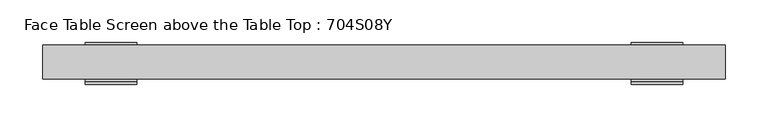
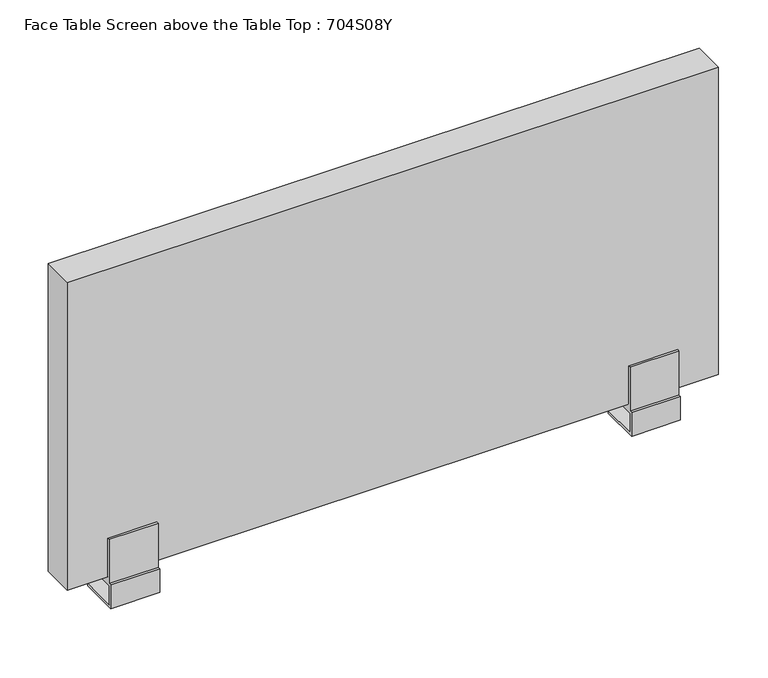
"""IFC4 building model written with IfcOpenShell, lengths in millimetres: furniture geometry, Face Table Screen above the Table Top : 704S08Y."""

from ifc_helpers import new_model, si_unit, frame, origin, place, context, project, spatial, polyline, circle_curve, outline, extrude, source, transform, mapped, element, save
from ifc_brep_helpers import plane_surface, cylinder_surface, advanced_brep


def face_table_screen_above_the_table_top_704s08y_034038e7(model_context):
    return source(origin(), model_context, "Body", "SolidModel", [
        advanced_brep(
        [(-325.0, 0.0, -39.4406633), (-315.0, 0.0, -39.4406633), (-315.0, 0.0, -28.0), (-325.0, 0.0, -28.0), (-350.0, 23.0, -25.0), (-350.0, -23.0, -25.0), (-290.0, -23.0, -25.0), (-290.0, 23.0, -25.0), (-350.0, -23.0, 0.0), (-350.0, 23.0, -28.0), (-350.0, -26.0, -28.0), (-350.0, -26.0, 3.0), (-350.0, -23.0, 3.0), (-350.0, -23.0, 60.0), (-350.0, -20.0, 60.0), (-350.0, -20.0, 10.0), (-350.0, 20.0, 10.0), (-350.0, 20.0, 60.0), (-350.0, 23.0, 60.0), (-350.0, 23.0, 0.0), (-290.0, -23.0, 0.0), (-290.0, 23.0, 0.0), (-290.0, 23.0, 60.0), (-290.0, 20.0, 60.0), (-290.0, 20.0, 10.0), (-290.0, -20.0, 10.0), (-290.0, -20.0, 60.0), (-290.0, -23.0, 60.0), (-290.0, -23.0, 3.0), (-290.0, -26.0, 3.0), (-290.0, -26.0, -28.0), (-290.0, 23.0, -28.0)],
        [
            (0, 1, circle_curve(frame((-320.0, 0.0, -39.4406633), z_axis=(0.0, 0.0, -1.0), x_axis=(1.0, 0.0, 0.0)), 5.0)),
            (1, 0, circle_curve(frame((-320.0, 0.0, -39.4406633), z_axis=(0.0, 0.0, -1.0), x_axis=(1.0, 0.0, 0.0)), 5.0)),
            (1, 2),
            (2, 3, circle_curve(frame((-320.0, 0.0, -28.0), z_axis=(0.0, 0.0, -1.0), x_axis=(1.0, 0.0, 0.0)), 5.0)),
            (3, 0),
            (3, 2, circle_curve(frame((-320.0, 0.0, -28.0), z_axis=(0.0, 0.0, -1.0), x_axis=(1.0, 0.0, 0.0)), 5.0)),
            (4, 5),
            (5, 6),
            (6, 7),
            (7, 4),
            (8, 5),
            (4, 9),
            (9, 10),
            (10, 11),
            (11, 12),
            (12, 13),
            (13, 14),
            (14, 15),
            (15, 16),
            (16, 17),
            (17, 18),
            (18, 19),
            (19, 8),
            (20, 21),
            (21, 22),
            (22, 23),
            (23, 24),
            (24, 25),
            (25, 26),
            (26, 27),
            (27, 28),
            (28, 29),
            (29, 30),
            (30, 31),
            (31, 7),
            (6, 20),
            (19, 21),
            (20, 8),
            (18, 22),
            (17, 23),
            (16, 24),
            (15, 25),
            (14, 26),
            (13, 27),
            (12, 28),
            (11, 29),
            (10, 30),
            (9, 31),
        ],
        [
            plane_surface(frame((-315.0, 0.0, -39.4406633), z_axis=(0.0, 0.0, -1.0), x_axis=(0.0, -1.0, 0.0))),
            cylinder_surface(frame((-320.0, 0.0, -39.4406633), z_axis=(0.0, 0.0, 1.0), x_axis=(1.0, 0.0, 0.0)), 5.0),
            plane_surface(frame((-315.0, 0.0, -25.0), z_axis=(0.0, 0.0, 1.0), x_axis=(0.0, 1.0, 0.0))),
            plane_surface(frame((-350.0, 23.0, 0.0), z_axis=(-1.0, 0.0, 0.0), x_axis=(0.0, -1.0, 0.0))),
            plane_surface(frame((-290.0, 23.0, 0.0), z_axis=(1.0, 0.0, 0.0), x_axis=(0.0, 1.0, 0.0))),
            plane_surface(frame((-290.0, -23.0, 0.0), z_axis=(0.0, 0.0, -1.0), x_axis=(-1.0, 0.0, 0.0))),
            plane_surface(frame((-290.0, 23.0, 0.0), z_axis=(0.0, 1.0, 0.0), x_axis=(-1.0, 0.0, 0.0))),
            plane_surface(frame((-290.0, 23.0, 60.0), z_axis=(0.0, 0.0, 1.0), x_axis=(-1.0, 0.0, 0.0))),
            plane_surface(frame((-290.0, 20.0, 60.0), z_axis=(0.0, -1.0, 0.0), x_axis=(-1.0, 0.0, 0.0))),
            plane_surface(frame((-290.0, 20.0, 10.0), z_axis=(0.0, 0.0, 1.0), x_axis=(-1.0, 0.0, 0.0))),
            plane_surface(frame((-290.0, -20.0, 10.0), z_axis=(0.0, 1.0, 0.0), x_axis=(-1.0, 0.0, 0.0))),
            plane_surface(frame((-290.0, -20.0, 60.0), z_axis=(0.0, 0.0, 1.0), x_axis=(-1.0, 0.0, 0.0))),
            plane_surface(frame((-290.0, -23.0, 60.0), z_axis=(0.0, -1.0, 0.0), x_axis=(-1.0, 0.0, 0.0))),
            plane_surface(frame((-290.0, -23.0, 3.0), z_axis=(0.0, 0.0, 1.0), x_axis=(-1.0, 0.0, 0.0))),
            plane_surface(frame((-290.0, -26.0, 3.0), z_axis=(0.0, -1.0, 0.0), x_axis=(-1.0, 0.0, 0.0))),
            plane_surface(frame((-290.0, -26.0, -28.0), z_axis=(0.0, 0.0, -1.0), x_axis=(-1.0, 0.0, 0.0))),
            plane_surface(frame((-290.0, 23.0, -28.0), z_axis=(0.0, 1.0, 0.0), x_axis=(-1.0, 0.0, 0.0))),
            plane_surface(frame((-290.0, -23.0, -25.0), z_axis=(0.0, 1.0, 0.0), x_axis=(-1.0, 0.0, 0.0))),
        ],
        [
            (0, [[1, 2]]),
            (1, [[-2, 3, 4, 5]]),
            (1, [[-1, -5, 6, -3]]),
            (2, [[7, 8, 9, 10]]),
            (3, [[11, -7, 12, 13, 14, 15, 16, 17, 18, 19, 20, 21, 22, 23]]),
            (4, [[24, 25, 26, 27, 28, 29, 30, 31, 32, 33, 34, 35, -9, 36]]),
            (5, [[-23, 37, -24, 38]]),
            (6, [[-22, 39, -25, -37]]),
            (7, [[-21, 40, -26, -39]]),
            (8, [[-20, 41, -27, -40]]),
            (9, [[-19, 42, -28, -41]]),
            (10, [[-18, 43, -29, -42]]),
            (11, [[-17, 44, -30, -43]]),
            (12, [[-16, 45, -31, -44]]),
            (13, [[-15, 46, -32, -45]]),
            (14, [[-14, 47, -33, -46]]),
            (15, [[-13, 48, -34, -47], [-4, -6]]),
            (16, [[-12, -10, -35, -48]]),
            (17, [[-11, -38, -36, -8]]),
        ],
    ),
        advanced_brep(
        [(315.0, 0.0, -39.4406633), (325.0, 0.0, -39.4406633), (325.0, 0.0, -28.0), (315.0, 0.0, -28.0), (290.0, 23.0, -25.0), (290.0, -23.0, -25.0), (350.0, -23.0, -25.0), (350.0, 23.0, -25.0), (290.0, -23.0, 0.0), (290.0, 23.0, -28.0), (290.0, -26.0, -28.0), (290.0, -26.0, 3.0), (290.0, -23.0, 3.0), (290.0, -23.0, 60.0), (290.0, -20.0, 60.0), (290.0, -20.0, 10.0), (290.0, 20.0, 10.0), (290.0, 20.0, 60.0), (290.0, 23.0, 60.0), (290.0, 23.0, 0.0), (350.0, -23.0, 0.0), (350.0, 23.0, 0.0), (350.0, 23.0, 60.0), (350.0, 20.0, 60.0), (350.0, 20.0, 10.0), (350.0, -20.0, 10.0), (350.0, -20.0, 60.0), (350.0, -23.0, 60.0), (350.0, -23.0, 3.0), (350.0, -26.0, 3.0), (350.0, -26.0, -28.0), (350.0, 23.0, -28.0)],
        [
            (0, 1, circle_curve(frame((320.0, 0.0, -39.4406633), z_axis=(0.0, 0.0, -1.0), x_axis=(1.0, 0.0, 0.0)), 5.0)),
            (1, 0, circle_curve(frame((320.0, 0.0, -39.4406633), z_axis=(0.0, 0.0, -1.0), x_axis=(1.0, 0.0, 0.0)), 5.0)),
            (1, 2),
            (2, 3, circle_curve(frame((320.0, 0.0, -28.0), z_axis=(0.0, 0.0, -1.0), x_axis=(1.0, 0.0, 0.0)), 5.0)),
            (3, 0),
            (3, 2, circle_curve(frame((320.0, 0.0, -28.0), z_axis=(0.0, 0.0, -1.0), x_axis=(1.0, 0.0, 0.0)), 5.0)),
            (4, 5),
            (5, 6),
            (6, 7),
            (7, 4),
            (8, 5),
            (4, 9),
            (9, 10),
            (10, 11),
            (11, 12),
            (12, 13),
            (13, 14),
            (14, 15),
            (15, 16),
            (16, 17),
            (17, 18),
            (18, 19),
            (19, 8),
            (20, 21),
            (21, 22),
            (22, 23),
            (23, 24),
            (24, 25),
            (25, 26),
            (26, 27),
            (27, 28),
            (28, 29),
            (29, 30),
            (30, 31),
            (31, 7),
            (6, 20),
            (19, 21),
            (20, 8),
            (18, 22),
            (17, 23),
            (16, 24),
            (15, 25),
            (14, 26),
            (13, 27),
            (12, 28),
            (11, 29),
            (10, 30),
            (9, 31),
        ],
        [
            plane_surface(frame((325.0, 0.0, -39.4406633), z_axis=(0.0, 0.0, -1.0), x_axis=(0.0, -1.0, 0.0))),
            cylinder_surface(frame((320.0, 0.0, -39.4406633), z_axis=(0.0, 0.0, 1.0), x_axis=(1.0, 0.0, 0.0)), 5.0),
            plane_surface(frame((325.0, 0.0, -25.0), z_axis=(0.0, 0.0, 1.0), x_axis=(0.0, 1.0, 0.0))),
            plane_surface(frame((290.0, 23.0, 0.0), z_axis=(-1.0, 0.0, 0.0), x_axis=(0.0, -1.0, 0.0))),
            plane_surface(frame((350.0, 23.0, 0.0), z_axis=(1.0, 0.0, 0.0), x_axis=(0.0, 1.0, 0.0))),
            plane_surface(frame((350.0, -23.0, 0.0), z_axis=(0.0, 0.0, -1.0), x_axis=(-1.0, 0.0, 0.0))),
            plane_surface(frame((350.0, 23.0, 0.0), z_axis=(0.0, 1.0, 0.0), x_axis=(-1.0, 0.0, 0.0))),
            plane_surface(frame((350.0, 23.0, 60.0), z_axis=(0.0, 0.0, 1.0), x_axis=(-1.0, 0.0, 0.0))),
            plane_surface(frame((350.0, 20.0, 60.0), z_axis=(0.0, -1.0, 0.0), x_axis=(-1.0, 0.0, 0.0))),
            plane_surface(frame((350.0, 20.0, 10.0), z_axis=(0.0, 0.0, 1.0), x_axis=(-1.0, 0.0, 0.0))),
            plane_surface(frame((350.0, -20.0, 10.0), z_axis=(0.0, 1.0, 0.0), x_axis=(-1.0, 0.0, 0.0))),
            plane_surface(frame((350.0, -20.0, 60.0), z_axis=(0.0, 0.0, 1.0), x_axis=(-1.0, 0.0, 0.0))),
            plane_surface(frame((350.0, -23.0, 60.0), z_axis=(0.0, -1.0, 0.0), x_axis=(-1.0, 0.0, 0.0))),
            plane_surface(frame((350.0, -23.0, 3.0), z_axis=(0.0, 0.0, 1.0), x_axis=(-1.0, 0.0, 0.0))),
            plane_surface(frame((350.0, -26.0, 3.0), z_axis=(0.0, -1.0, 0.0), x_axis=(-1.0, 0.0, 0.0))),
            plane_surface(frame((350.0, -26.0, -28.0), z_axis=(0.0, 0.0, -1.0), x_axis=(-1.0, 0.0, 0.0))),
            plane_surface(frame((350.0, 23.0, -28.0), z_axis=(0.0, 1.0, 0.0), x_axis=(-1.0, 0.0, 0.0))),
            plane_surface(frame((350.0, -23.0, -25.0), z_axis=(0.0, 1.0, 0.0), x_axis=(-1.0, 0.0, 0.0))),
        ],
        [
            (0, [[1, 2]]),
            (1, [[-2, 3, 4, 5]]),
            (1, [[-1, -5, 6, -3]]),
            (2, [[7, 8, 9, 10]]),
            (3, [[11, -7, 12, 13, 14, 15, 16, 17, 18, 19, 20, 21, 22, 23]]),
            (4, [[24, 25, 26, 27, 28, 29, 30, 31, 32, 33, 34, 35, -9, 36]]),
            (5, [[-23, 37, -24, 38]]),
            (6, [[-22, 39, -25, -37]]),
            (7, [[-21, 40, -26, -39]]),
            (8, [[-20, 41, -27, -40]]),
            (9, [[-19, 42, -28, -41]]),
            (10, [[-18, 43, -29, -42]]),
            (11, [[-17, 44, -30, -43]]),
            (12, [[-16, 45, -31, -44]]),
            (13, [[-15, 46, -32, -45]]),
            (14, [[-14, 47, -33, -46]]),
            (15, [[-13, 48, -34, -47], [-4, -6]]),
            (16, [[-12, -10, -35, -48]]),
            (17, [[-11, -38, -36, -8]]),
        ],
    ),
        extrude(outline(polyline([(400.0, -20.0), (-400.0, -20.0), (-400.0, 20.0), (400.0, 20.0), (400.0, -20.0)])), frame((0.0, 0.0, 10.0), z_axis=(0.0, 0.0, 1.0), x_axis=(1.0, 0.0, 0.0)), (0.0, 0.0, 1.0), 400.0),
    ])


if __name__ == "__main__":
    model = new_model("IFC4")
    model_context = context("Model", 3, world=origin())
    ifc_project = project(units=[si_unit("LENGTHUNIT", "METRE", prefix="MILLI")], contexts=[model_context])
    site = spatial("IfcSite", under=ifc_project)
    building = spatial("IfcBuilding", under=site)
    placement = place(None, origin())
    face_table_screen_above_the_table_top_704s08y_shape = face_table_screen_above_the_table_top_704s08y_034038e7(model_context)
    element("IfcFurniture", 1, ObjectType="Face Table Screen above the Table Top : 704S08Y", at=placement, inside=building, context=model_context, shape_type="MappedRepresentation", body=[
        mapped(face_table_screen_above_the_table_top_704s08y_shape, transform((0.0, 0.0, 0.0), x_axis=(1.0, 0.0, 0.0), y_axis=(0.0, 1.0, 0.0), z_axis=(0.0, 0.0, 1.0))),
    ])
    save(model, "model.ifc")
